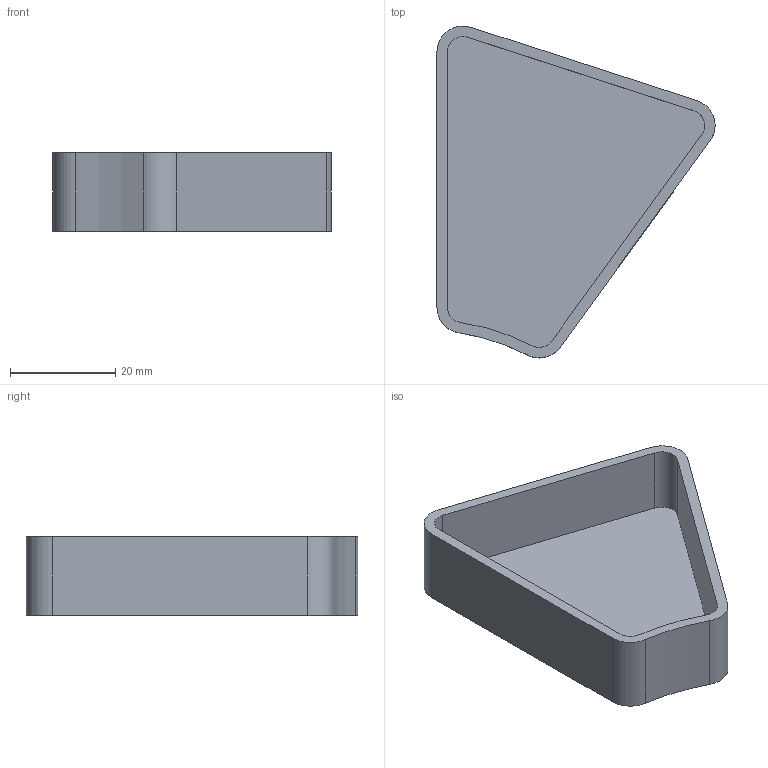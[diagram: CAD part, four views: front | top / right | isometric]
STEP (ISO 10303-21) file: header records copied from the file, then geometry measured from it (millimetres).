
FILE_DESCRIPTION(/* description */ (''),/* implementation_level */ '2;1');
FILE_NAME(/* name */ 'modulo singolo.step',/* time_stamp */ '2024-01-18T10:03:15+01:00',/* author */ (''),/* organization */ (''),/* preprocessor_version */ 'ST-DEVELOPER v20',/* originating_system */ 'Autodesk Translation Framework v12.14.0.127',/* authorisation */ '');
FILE_SCHEMA (('AUTOMOTIVE_DESIGN { 1 0 10303 214 3 1 1 }'));
Length unit declared in the file: millimetre
Products named in the file (1): base desk asimmetrica
Bounding box: 52.93 x 63.16 x 14.85 mm (x, y, z)
Volume: 9102.9 mm3; surface area: 9568.6 mm2
Topology: 1 solids, 1 shells, 19 faces, 48 edges, 32 vertices
Faces by surface type: cylinder 10, plane 9
Entity records: 622 total; most frequent: DIRECTION 108, CARTESIAN_POINT 100, ORIENTED_EDGE 96, EDGE_CURVE 48, AXIS2_PLACEMENT_3D 40, VERTEX_POINT 32, LINE 28, VECTOR 28
